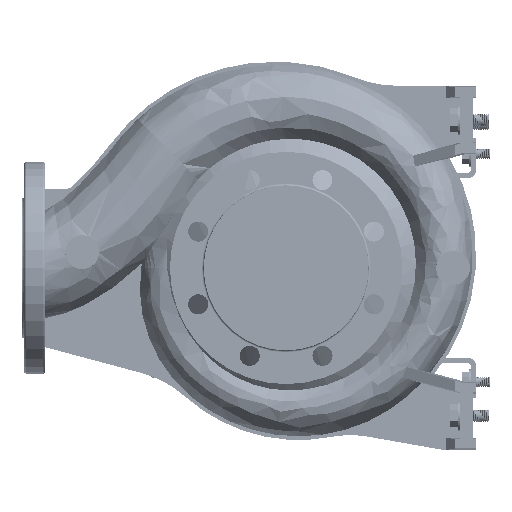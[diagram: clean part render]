
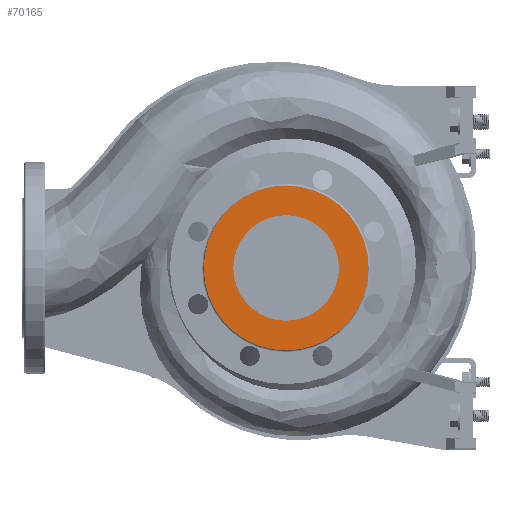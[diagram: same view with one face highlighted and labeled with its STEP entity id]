
A CAD part, left-side view. The second image highlights one B-rep face of the part: STEP entity #70165.
In plain terms, the highlighted planar face has unit normal (-1, 0, 0).
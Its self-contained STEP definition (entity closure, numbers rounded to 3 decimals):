
#4284 = ORIENTED_EDGE ( 'NONE', *, *, #111434, .F. ) ;
#8937 = DIRECTION ( 'NONE',  ( 1., 0., 0. ) ) ;
#11150 = DIRECTION ( 'NONE',  ( 0., 0., 1. ) ) ;
#12315 = VERTEX_POINT ( 'NONE', #30831 ) ;
#18497 = DIRECTION ( 'NONE',  ( -1., 0., 0. ) ) ;
#23469 = ORIENTED_EDGE ( 'NONE', *, *, #43059, .F. ) ;
#23868 = EDGE_LOOP ( 'NONE', ( #119550, #133048 ) ) ;
#27027 = AXIS2_PLACEMENT_3D ( 'NONE', #76501, #8937, #104069 ) ;
#27794 = EDGE_CURVE ( 'NONE', #63074, #159961, #111671, .T. ) ;
#30831 = CARTESIAN_POINT ( 'NONE',  ( -125., 0., -50. ) ) ;
#36014 = DIRECTION ( 'NONE',  ( 0., 0., 1. ) ) ;
#40428 = EDGE_LOOP ( 'NONE', ( #4284, #23469 ) ) ;
#41285 = CARTESIAN_POINT ( 'NONE',  ( -125., 0., -78. ) ) ;
#43059 = EDGE_CURVE ( 'NONE', #12315, #50764, #113709, .T. ) ;
#45274 = AXIS2_PLACEMENT_3D ( 'NONE', #94640, #132941, #11150 ) ;
#50764 = VERTEX_POINT ( 'NONE', #58601 ) ;
#51129 = CARTESIAN_POINT ( 'NONE',  ( -125., 0., 0. ) ) ;
#53827 = CIRCLE ( 'NONE', #45274, 78. ) ;
#58601 = CARTESIAN_POINT ( 'NONE',  ( -125., 0., 50. ) ) ;
#59402 = DIRECTION ( 'NONE',  ( 0., 0., 1. ) ) ;
#63074 = VERTEX_POINT ( 'NONE', #119210 ) ;
#70165 = ADVANCED_FACE ( 'NONE', ( #75629, #141403 ), #130732, .F. ) ;
#72562 = CARTESIAN_POINT ( 'NONE',  ( -125., 0., 0. ) ) ;
#73624 = CARTESIAN_POINT ( 'NONE',  ( -125., 0., 0. ) ) ;
#75629 = FACE_BOUND ( 'NONE', #40428, .T. ) ;
#76501 = CARTESIAN_POINT ( 'NONE',  ( -125., 0., 0. ) ) ;
#76820 = AXIS2_PLACEMENT_3D ( 'NONE', #72562, #115222, #126803 ) ;
#85886 = EDGE_CURVE ( 'NONE', #159961, #63074, #53827, .T. ) ;
#87270 = AXIS2_PLACEMENT_3D ( 'NONE', #51129, #159553, #36014 ) ;
#94640 = CARTESIAN_POINT ( 'NONE',  ( -125., 0., 0. ) ) ;
#104069 = DIRECTION ( 'NONE',  ( 0., 0., -1. ) ) ;
#105993 = AXIS2_PLACEMENT_3D ( 'NONE', #73624, #18497, #59402 ) ;
#111434 = EDGE_CURVE ( 'NONE', #50764, #12315, #152632, .T. ) ;
#111671 = CIRCLE ( 'NONE', #105993, 78. ) ;
#113709 = CIRCLE ( 'NONE', #76820, 50. ) ;
#115222 = DIRECTION ( 'NONE',  ( -1., 0., 0. ) ) ;
#119210 = CARTESIAN_POINT ( 'NONE',  ( -125., 0., 78. ) ) ;
#119550 = ORIENTED_EDGE ( 'NONE', *, *, #27794, .T. ) ;
#126803 = DIRECTION ( 'NONE',  ( 0., 0., 1. ) ) ;
#130732 = PLANE ( 'NONE',  #27027 ) ;
#132941 = DIRECTION ( 'NONE',  ( -1., 0., 0. ) ) ;
#133048 = ORIENTED_EDGE ( 'NONE', *, *, #85886, .T. ) ;
#141403 = FACE_OUTER_BOUND ( 'NONE', #23868, .T. ) ;
#152632 = CIRCLE ( 'NONE', #87270, 50. ) ;
#159553 = DIRECTION ( 'NONE',  ( -1., 0., 0. ) ) ;
#159961 = VERTEX_POINT ( 'NONE', #41285 ) ;
